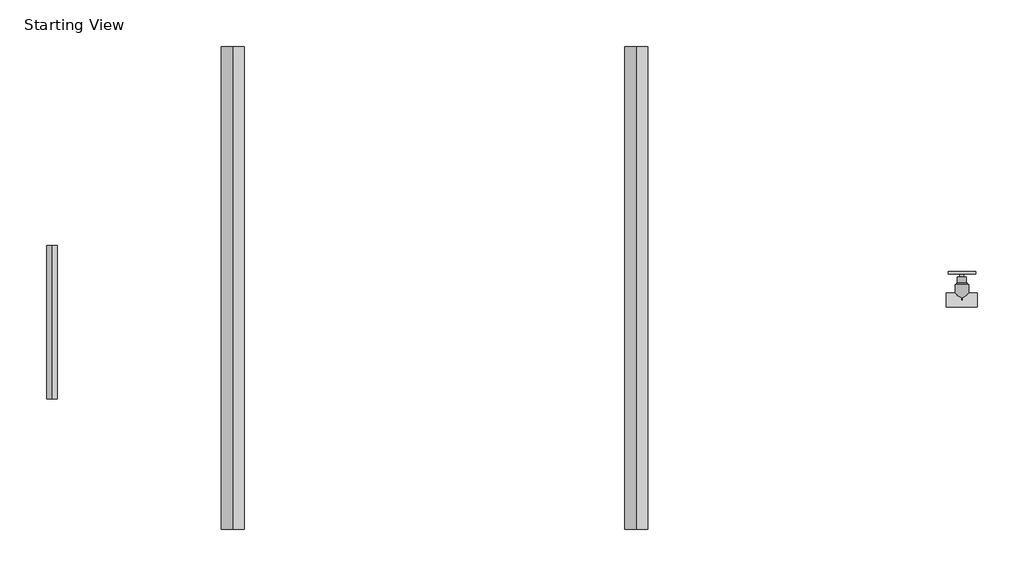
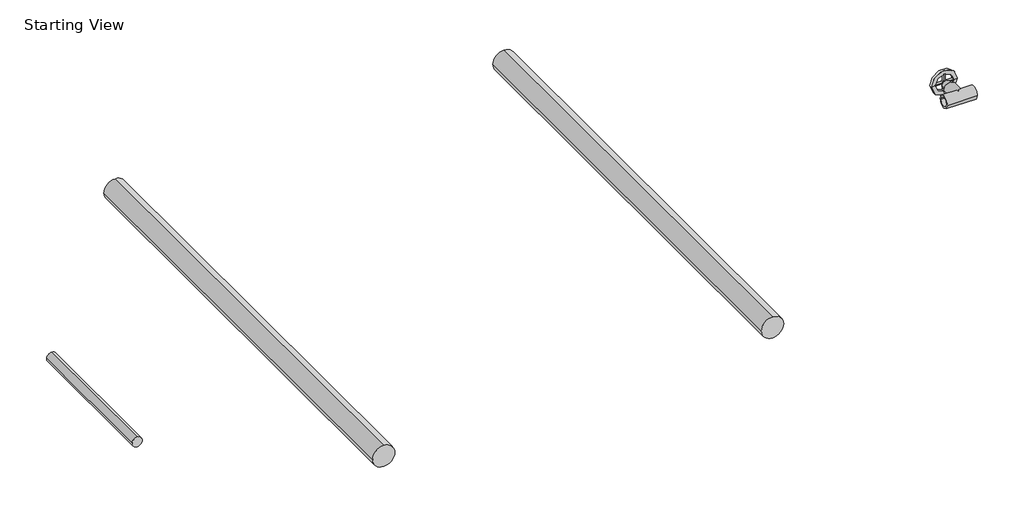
# One storey, incomplete: 3 pipe segments, 1 pipe fitting.
"""IFC4 building model written with IfcOpenShell, lengths in millimetres."""

from ifc_helpers import new_model, si_unit, point, frame, frame_2d, origin, place, context, project, spatial, circle_curve, trimmed, segment, composite_curve, outline, extrude, transform, mapped, element, save
from components import var_fd3edec3

model = new_model("IFC4")

# Units and contexts
model_context = context("Model", 3, world=origin())
ifc_project = project(units=[si_unit("LENGTHUNIT", "METRE", prefix="MILLI")], contexts=[model_context])

# Site, building, storey
site = spatial("IfcSite", under=ifc_project)
building = spatial("IfcBuilding", under=site)
storey = spatial("IfcBuildingStorey", under=building, Name="Starting View", Elevation=0.0)

# Pipe fitting
placement = place(None, origin())
var_shape = var_fd3edec3(model_context)
element("IfcPipeFitting", 1, ObjectType="PlastigamaWavin_Unionesdetubería_TermomaxLLavedePasoAzul20mm-63mm : Var.", at=placement, inside=storey, context=model_context, shape_type="MappedRepresentation", body=[
    mapped(var_shape, transform((5296.2351539, 2109.7531713, 0.0), x_axis=(-1.0, 0.0, 0.0), y_axis=(0.0, 0.0, 1.0), z_axis=(0.0, 1.0, 0.0))),
])

# Pipe segments
element("IfcPipeSegment", 2, ObjectType="Plastigama Termomax PPR Azul", at=placement, inside=storey, context=model_context, shape_type="SweptSolid", body=[
    extrude(outline(composite_curve([segment(trimmed(circle_curve(frame_2d((0.0, 3303.0981051)), 31.5), [point((0.0, 3271.5981051))], [point((-31.5, 3303.0981051))], False, "CARTESIAN"), True, "CONTINUOUS"), segment(trimmed(circle_curve(frame_2d((0.0, 3303.0981051)), 31.5), [point((-31.5, 3303.0981051))], [point((0.0, 3334.5981051))], False, "CARTESIAN"), True, "CONTINUOUS"), segment(trimmed(circle_curve(frame_2d((0.0, 3303.0981051)), 31.5), [point((0.0, 3334.5981051))], [point((31.5, 3303.0981051))], False, "CARTESIAN"), True, "CONTINUOUS"), segment(trimmed(circle_curve(frame_2d((0.0, 3303.0981051)), 31.5), [point((31.5, 3303.0981051))], [point((0.0, 3271.5981051))], False, "CARTESIAN"), True, "CONTINUOUS")], self_intersect=False)), frame((0.0, 1483.1102477, 0.0), z_axis=(0.0, 1.0, 0.0), x_axis=(0.0, 0.0, 1.0)), (0.0, 0.0, 1.0), 1320.0),
])
element("IfcPipeSegment", 3, ObjectType="Plastigama Termomax PPR Verde", at=placement, inside=storey, context=model_context, shape_type="SweptSolid", body=[
    extrude(outline(composite_curve([segment(trimmed(circle_curve(frame_2d((0.0, 4406.2733623)), 31.5), [point((0.0, 4374.7733623))], [point((-31.5, 4406.2733623))], False, "CARTESIAN"), True, "CONTINUOUS"), segment(trimmed(circle_curve(frame_2d((0.0, 4406.2733623)), 31.5), [point((-31.5, 4406.2733623))], [point((0.0, 4437.7733623))], False, "CARTESIAN"), True, "CONTINUOUS"), segment(trimmed(circle_curve(frame_2d((0.0, 4406.2733623)), 31.5), [point((0.0, 4437.7733623))], [point((31.5, 4406.2733623))], False, "CARTESIAN"), True, "CONTINUOUS"), segment(trimmed(circle_curve(frame_2d((0.0, 4406.2733623)), 31.5), [point((31.5, 4406.2733623))], [point((0.0, 4374.7733623))], False, "CARTESIAN"), True, "CONTINUOUS")], self_intersect=False)), frame((0.0, 1483.1102477, 0.0), z_axis=(0.0, 1.0, 0.0), x_axis=(0.0, 0.0, 1.0)), (0.0, 0.0, 1.0), 1320.0),
])
element("IfcPipeSegment", 4, ObjectType="Tubo de Transición Universal", at=placement, inside=storey, context=model_context, shape_type="SweptSolid", body=[
    extrude(outline(composite_curve([segment(trimmed(circle_curve(frame_2d((0.0, 2808.7413153)), 14.2875), [point((0.0, 2794.4538153))], [point((-14.2875, 2808.7413153))], False, "CARTESIAN"), True, "CONTINUOUS"), segment(trimmed(circle_curve(frame_2d((0.0, 2808.7413153)), 14.2875), [point((-14.2875, 2808.7413153))], [point((0.0, 2823.0288153))], False, "CARTESIAN"), True, "CONTINUOUS"), segment(trimmed(circle_curve(frame_2d((0.0, 2808.7413153)), 14.2875), [point((0.0, 2823.0288153))], [point((14.2875, 2808.7413153))], False, "CARTESIAN"), True, "CONTINUOUS"), segment(trimmed(circle_curve(frame_2d((0.0, 2808.7413153)), 14.2875), [point((14.2875, 2808.7413153))], [point((0.0, 2794.4538153))], False, "CARTESIAN"), True, "CONTINUOUS")], self_intersect=False)), frame((0.0, 1838.5139614, 0.0), z_axis=(0.0, 1.0, 0.0), x_axis=(0.0, 0.0, 1.0)), (0.0, 0.0, 1.0), 420.0),
])

save(model, "model.ifc")
